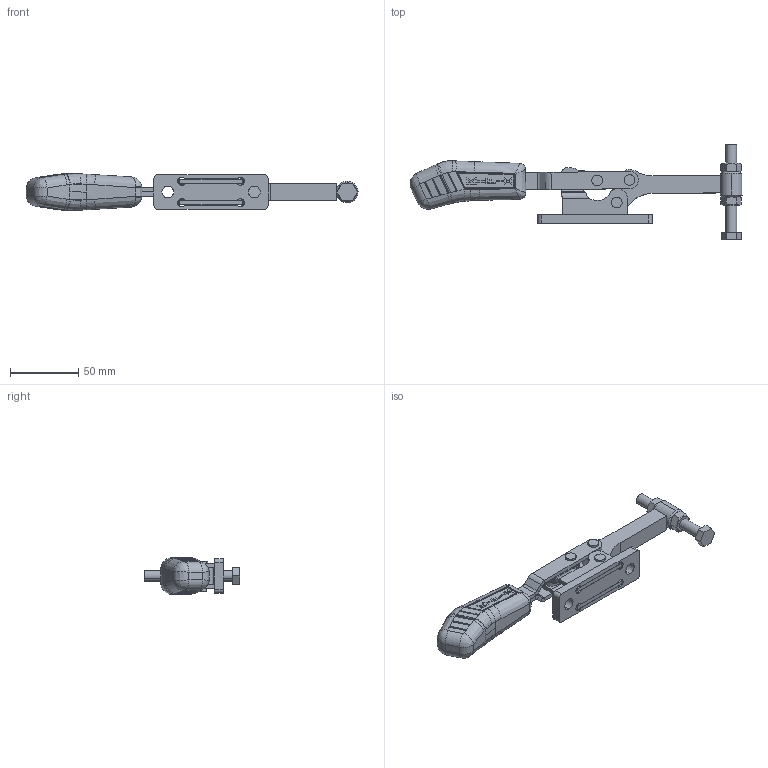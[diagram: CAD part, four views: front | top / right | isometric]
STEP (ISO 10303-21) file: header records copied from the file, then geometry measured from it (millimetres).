
FILE_DESCRIPTION (( 'STEP AP203' ), '1' );
FILE_NAME ('KF-515 D.STEP', '2014-10-30T17:17:58', ( 'Ricardo' ), ( '' ), 'SwSTEP 2.0', 'SolidWorks 2014', '' );
FILE_SCHEMA (( 'CONFIG_CONTROL_DESIGN' ));
Length unit declared in the file: millimetre
Products named in the file (15): KF-515 D; 3670000102; 17.50001; 02.10060; 01.10191; 07.60001; 02.11074_Direita; 20.20004; 02.11074_Esquerda; 12.50020; 03.15029; 11.50002; 08.10078; PSB-M8; 3670000078
Assembly tree (22 placements, depth 3):
  KF-515 D
    01.10191  x2
    02.11074_Direita
    02.11074_Esquerda
    03.15029
    08.10078  x2
    3670000078  x3
    3670000102
    17.50001  x4
    02.10060
    07.60001
    PSB-M8
      20.20004
      12.50020
      11.50002  x2
Bounding box: 243.85 x 70.33 x 27.02 mm (x, y, z)
Volume: 101798.4 mm3; surface area: 49262.5 mm2
Topology: 21 solids, 21 shells, 672 faces, 1647 edges, 1036 vertices
Faces by surface type: plane 264, cylinder 205, bspline 134, cone 66, torus 3
Entity records: 22290 total; most frequent: CARTESIAN_POINT 8421, ORIENTED_EDGE 2804, DIRECTION 2066, EDGE_CURVE 1402, VERTEX_POINT 890, AXIS2_PLACEMENT_3D 741, EDGE_LOOP 616, LINE 584
